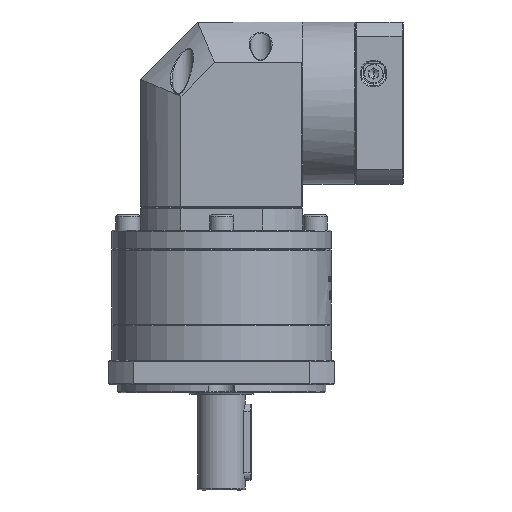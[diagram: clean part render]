
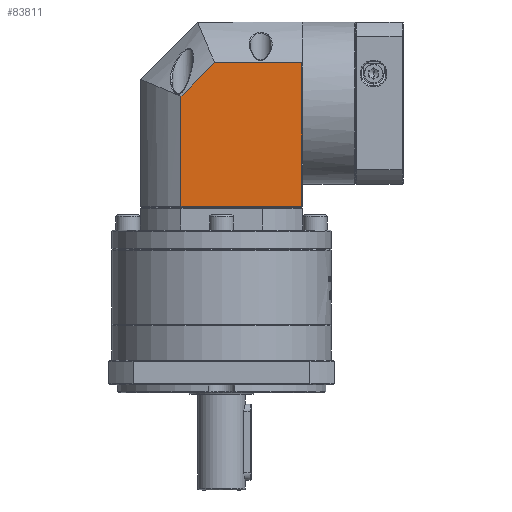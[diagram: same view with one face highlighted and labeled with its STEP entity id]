
A CAD part, front view. The second image highlights one B-rep face of the part: STEP entity #83811.
In plain terms, the highlighted planar face has unit normal (0, -1, 0).
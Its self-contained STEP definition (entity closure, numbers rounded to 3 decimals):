
#6721 = VERTEX_POINT ( 'NONE', #23355 ) ;
#7779 = CARTESIAN_POINT ( 'NONE',  ( 19.392, -149.886, 36.772 ) ) ;
#10514 = EDGE_CURVE ( 'NONE', #6721, #44174, #18629, .T. ) ;
#12581 = VERTEX_POINT ( 'NONE', #135501 ) ;
#15037 = CARTESIAN_POINT ( 'NONE',  ( -44.321, -149.886, 19.241 ) ) ;
#17992 = VERTEX_POINT ( 'NONE', #92430 ) ;
#18629 = LINE ( 'NONE', #82974, #158937 ) ;
#23355 = CARTESIAN_POINT ( 'NONE',  ( -44.321, -149.886, -38.442 ) ) ;
#25574 = ORIENTED_EDGE ( 'NONE', *, *, #10514, .F. ) ;
#30225 = ORIENTED_EDGE ( 'NONE', *, *, #32662, .F. ) ;
#32662 = EDGE_CURVE ( 'NONE', #171511, #12581, #111381, .T. ) ;
#34872 = DIRECTION ( 'NONE',  ( 0.707, 0., 0.707 ) ) ;
#37507 = EDGE_CURVE ( 'NONE', #6721, #12581, #147456, .T. ) ;
#39347 = EDGE_LOOP ( 'NONE', ( #170872, #30225, #151310, #163360, #25574 ) ) ;
#43588 = CARTESIAN_POINT ( 'NONE',  ( 19.392, -149.886, -38.442 ) ) ;
#44174 = VERTEX_POINT ( 'NONE', #15037 ) ;
#46776 = CARTESIAN_POINT ( 'NONE',  ( 18.892, -149.886, 36.772 ) ) ;
#47496 = CARTESIAN_POINT ( 'NONE',  ( 18.892, -149.886, 58.058 ) ) ;
#56159 = VECTOR ( 'NONE', #127795, 1000. ) ;
#71773 = FACE_OUTER_BOUND ( 'NONE', #39347, .T. ) ;
#74687 = DIRECTION ( 'NONE',  ( 0., 0., -1. ) ) ;
#75687 = PLANE ( 'NONE',  #159675 ) ;
#75798 = LINE ( 'NONE', #168431, #152373 ) ;
#79400 = EDGE_CURVE ( 'NONE', #44174, #17992, #75798, .T. ) ;
#82974 = CARTESIAN_POINT ( 'NONE',  ( -44.321, -149.886, 58.058 ) ) ;
#83811 = ADVANCED_FACE ( 'NONE', ( #71773 ), #75687, .F. ) ;
#89348 = CARTESIAN_POINT ( 'NONE',  ( 19.392, -149.886, 58.058 ) ) ;
#92430 = CARTESIAN_POINT ( 'NONE',  ( -26.791, -149.886, 36.772 ) ) ;
#111381 = LINE ( 'NONE', #47496, #151837 ) ;
#116988 = DIRECTION ( 'NONE',  ( 1., 0., 0. ) ) ;
#117274 = DIRECTION ( 'NONE',  ( -1., 0., 0. ) ) ;
#119505 = LINE ( 'NONE', #7779, #149350 ) ;
#119507 = EDGE_CURVE ( 'NONE', #17992, #171511, #119505, .T. ) ;
#127795 = DIRECTION ( 'NONE',  ( 1., 0., 0. ) ) ;
#135501 = CARTESIAN_POINT ( 'NONE',  ( 18.892, -149.886, -38.442 ) ) ;
#138216 = DIRECTION ( 'NONE',  ( 0., 0., 1. ) ) ;
#147456 = LINE ( 'NONE', #43588, #56159 ) ;
#149350 = VECTOR ( 'NONE', #116988, 1000. ) ;
#151310 = ORIENTED_EDGE ( 'NONE', *, *, #119507, .F. ) ;
#151837 = VECTOR ( 'NONE', #74687, 1000. ) ;
#152373 = VECTOR ( 'NONE', #34872, 1000. ) ;
#157724 = DIRECTION ( 'NONE',  ( 0., 1., 0. ) ) ;
#158937 = VECTOR ( 'NONE', #138216, 1000. ) ;
#159675 = AXIS2_PLACEMENT_3D ( 'NONE', #89348, #157724, #117274 ) ;
#163360 = ORIENTED_EDGE ( 'NONE', *, *, #79400, .F. ) ;
#168431 = CARTESIAN_POINT ( 'NONE',  ( -44.321, -149.886, 19.241 ) ) ;
#170872 = ORIENTED_EDGE ( 'NONE', *, *, #37507, .T. ) ;
#171511 = VERTEX_POINT ( 'NONE', #46776 ) ;
